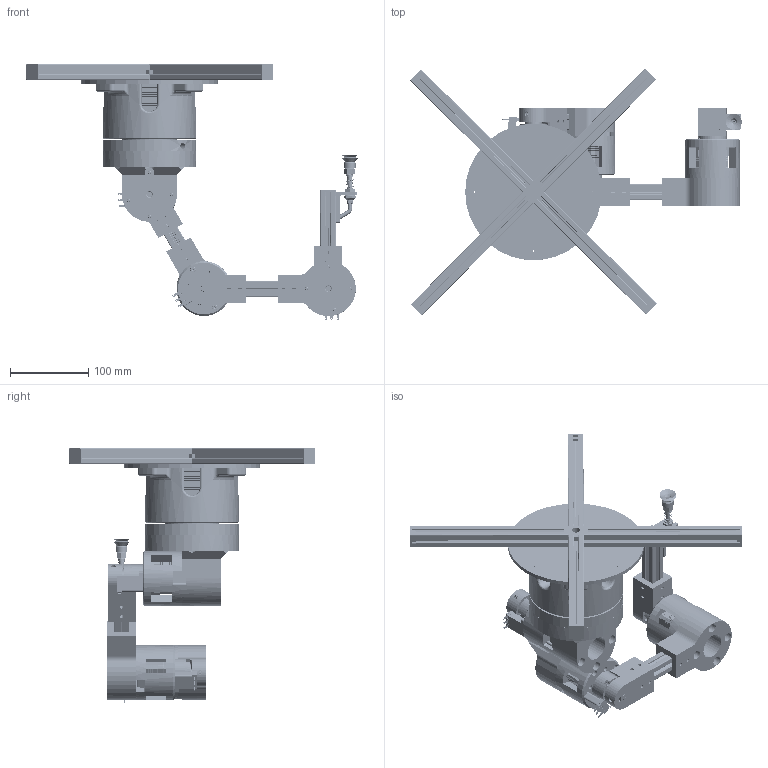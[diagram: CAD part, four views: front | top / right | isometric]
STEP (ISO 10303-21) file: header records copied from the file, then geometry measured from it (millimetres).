
FILE_DESCRIPTION(/* description */ ('','CAx-IF Rec.Pracs.---Representation and Presentation of Product Manufacturing Information (PMI)---4.0---2014-10-13'),/* implementation_level */ '2;1');
FILE_NAME(/* name */ 'Assieme_antropomorfo_ventosa.stp',/* time_stamp */ '2026-03-05T20:07:37+01:00',/* author */ ('R5800u'),/* organization */ (''),/* preprocessor_version */ 'ST-DEVELOPER v20',/* originating_system */ 'Autodesk Inventor 2025',/* authorisation */ '');
FILE_SCHEMA (('AP242_MANAGED_MODEL_BASED_3D_ENGINEERING_MIM_LF { 1 0 10303 442 1 1 4 }'));
Products named in the file (44): Assieme_bracci_nema_riduttore3; tslot-20x20-4; blocco_nema_riduttore2; blocco_nema_riduttore; riduttore_nema17_3; blocco_base; tslot-20x20-5; blocco_nema_riduttore2_1; NEMA 42SHDC3030Z; blocco_nema; ANSI B18.3.1M - M4x0,7 x 50, FSHCSM; blocco_albero; riduttore_nema17; blocco_nema2; NEMA 17HS4401S-PG518; base_01; maschera; ISO 104 - 1 11 50 x 70 x 14; blocco_alto_base; AS 1112 - M5  Tipo 5; ANSI B18.3.1M - M5x0,8 x 30, FSHCSM; Assieme_tappo_tslot; tappo6; tslot-20x20-3; blocco_finecorsa; blocco_finecorsa2; blocco_finecorsa3; Microswitch-SS-3GL13SL; limit-switch-bottomcase; limit-switch-top-case; pins; switch_lever; R.03.Suction Grab; R.03.01.Cup; R.03.02.Tube; R.03.03.Spring; R.03.04.Fitting; DIN 3771 - 5 x 1,8 - N - NBR 70; R.03.05.Interface; R.03.06.Nut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
Assembly tree (77 placements, depth 3):
  Assieme_bracci_nema_riduttore3
    tslot-20x20-4
    blocco_nema_riduttore2
      NEMA 42SHDC3030Z
      blocco_nema
      ANSI B18.3.1M - M4x0,7 x 50, FSHCSM  x4
      blocco_albero
      riduttore_nema17
    blocco_nema_riduttore
      NEMA 42SHDC3030Z
      blocco_nema
      ANSI B18.3.1M - M4x0,7 x 50, FSHCSM  x4
      blocco_albero
      riduttore_nema17_3
    blocco_base
    tslot-20x20-5
    blocco_nema2  x2
    blocco_nema_riduttore2_1
      NEMA 42SHDC3030Z
      blocco_nema
      ANSI B18.3.1M - M4x0,7 x 50, FSHCSM  x4
      blocco_albero
      riduttore_nema17
    NEMA 17HS4401S-PG518
    base_01
    maschera
    ISO 104 - 1 11 50 x 70 x 14
    blocco_alto_base
    AS 1112 - M5  Tipo 5  x4
    ANSI B18.3.1M - M5x0,8 x 30, FSHCSM  x4
    Assieme_tappo_tslot
      tappo6
      tslot-20x20-3  x4
      tappo_01  x4
    Microswitch-SS-3GL13SL  x3
      limit-switch-bottomcase
      limit-switch-top-case
      pins
      switch_lever
    blocco_finecorsa
    blocco_finecorsa2
    blocco_finecorsa3
    R.03.Suction Grab
      R.03.01.Cup
      R.03.02.Tube
      R.03.03.Spring
      R.03.04.Fitting
      DIN 3771 - 5 x 1,8 - N - NBR 70
      R.03.05.Interface
      R.03.06.Nut
      blocco_ventosa_profilato
      tslot-20x20-100mm
      tubo_silicone
    tappo_01
Bounding box: 423.46 x 314.84 x 326.34 mm (x, y, z)
Volume: 2550885.5 mm3; surface area: 742864.7 mm2
Topology: 115 solids, 117 shells, 6763 faces, 17123 edges, 10818 vertices
Faces by surface type: plane 5163, cylinder 1015, bspline 201, cone 166, torus 138, sphere 80
Full cylindrical faces by diameter (mm): 1.1 x12, 1.2 x21, 1.6 x8, 1.75 x3, 2 x9, 2.4 x2, 2.5 x7, 2.9 x7, 3 x25, 3.2 x54, 3.4 x2, 4 x15, 4.134 x4, 4.2 x7, 4.3 x58, 4.68 x8, 5 x13, 5.2 x3, 5.25 x1, 5.3 x12, 5.7 x3, 5.75 x8, 5.8 x12, 6 x2, 6.5 x13, 7 x18, 8 x25, 8.1 x1, 8.2 x3, 8.5 x4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
Entity records: 130872 total; most frequent: CARTESIAN_POINT 30867, DIRECTION 19274, ORIENTED_EDGE 17992, EDGE_CURVE 9006, LINE 7024, VECTOR 7024, AXIS2_PLACEMENT_3D 6125, VERTEX_POINT 5770
